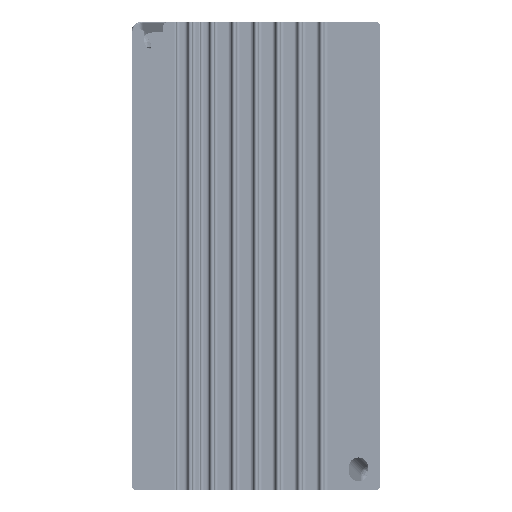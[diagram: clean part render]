
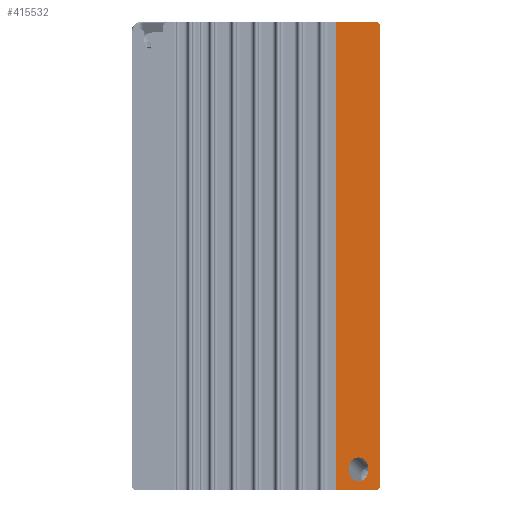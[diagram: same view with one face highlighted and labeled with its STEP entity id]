
A CAD part, front view. The second image highlights one B-rep face of the part: STEP entity #415532.
In plain terms, the highlighted planar face has unit normal (0, -1, 0).
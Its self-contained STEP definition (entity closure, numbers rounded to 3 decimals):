
#413631=CARTESIAN_POINT('',(32.8,-10.4,-62.8));
#413632=DIRECTION('',(0.,1.,0.));
#413633=DIRECTION('',(1.,0.,0.));
#413634=AXIS2_PLACEMENT_3D('',#413631,#413632,#413633);
#413639=DIRECTION('',(1.,0.,0.));
#413640=VECTOR('',#413639,11.);
#413641=CARTESIAN_POINT('',(21.8,-10.4,64.));
#413642=LINE('',#413641,#413640);
#413646=CARTESIAN_POINT('',(32.8,-10.4,62.8));
#413647=DIRECTION('',(0.,1.,0.));
#413648=DIRECTION('',(0.,0.,1.));
#413649=AXIS2_PLACEMENT_3D('',#413646,#413647,#413648);
#413654=DIRECTION('',(0.,0.,-1.));
#413655=VECTOR('',#413654,125.6);
#413656=CARTESIAN_POINT('',(34.,-10.4,62.8));
#413657=LINE('',#413656,#413655);
#413661=CARTESIAN_POINT('',(28.,-10.4,-59.));
#413662=DIRECTION('',(0.,-1.,0.));
#413663=DIRECTION('',(-1.,0.,0.));
#413664=AXIS2_PLACEMENT_3D('',#413661,#413662,#413663);
#413669=CARTESIAN_POINT('',(28.,-10.4,-57.7));
#413670=DIRECTION('',(0.,-1.,0.));
#413671=DIRECTION('',(1.,0.,0.));
#413672=AXIS2_PLACEMENT_3D('',#413669,#413670,#413671);
#413888=DIRECTION('',(0.,0.,-1.));
#413889=VECTOR('',#413888,128.);
#413890=CARTESIAN_POINT('',(21.8,-10.4,64.));
#413891=LINE('',#413890,#413889);
#413902=DIRECTION('',(1.,0.,0.));
#413903=VECTOR('',#413902,11.);
#413904=CARTESIAN_POINT('',(21.8,-10.4,-64.));
#413905=LINE('',#413904,#413903);
#413923=DIRECTION('',(0.,0.,1.));
#413924=VECTOR('',#413923,1.3);
#413925=CARTESIAN_POINT('',(25.4,-10.4,-59.));
#413926=LINE('',#413925,#413924);
#413944=DIRECTION('',(0.,0.,-1.));
#413945=VECTOR('',#413944,1.3);
#413946=CARTESIAN_POINT('',(30.6,-10.4,-57.7));
#413947=LINE('',#413946,#413945);
#414145=CARTESIAN_POINT('',(32.8,-10.4,64.));
#414146=VERTEX_POINT('',#414145);
#414147=CARTESIAN_POINT('',(21.8,-10.4,64.));
#414148=VERTEX_POINT('',#414147);
#414251=CARTESIAN_POINT('',(34.,-10.4,62.8));
#414252=VERTEX_POINT('',#414251);
#414253=CARTESIAN_POINT('',(34.,-10.4,-62.8));
#414254=CARTESIAN_POINT('',(32.8,-10.4,-64.));
#414255=VERTEX_POINT('',#414253);
#414256=VERTEX_POINT('',#414254);
#414257=CARTESIAN_POINT('',(21.8,-10.4,-64.));
#414258=VERTEX_POINT('',#414257);
#414259=CARTESIAN_POINT('',(25.4,-10.4,-59.));
#414260=CARTESIAN_POINT('',(30.6,-10.4,-59.));
#414261=VERTEX_POINT('',#414259);
#414262=VERTEX_POINT('',#414260);
#414263=CARTESIAN_POINT('',(30.6,-10.4,-57.7));
#414264=VERTEX_POINT('',#414263);
#414265=CARTESIAN_POINT('',(25.4,-10.4,-57.7));
#414266=VERTEX_POINT('',#414265);
#415505=CARTESIAN_POINT('',(21.8,-10.4,64.));
#415506=DIRECTION('',(0.,-1.,0.));
#415507=DIRECTION('',(1.,0.,0.));
#415508=AXIS2_PLACEMENT_3D('',#415505,#415506,#415507);
#415509=PLANE('',#415508);
#415511=ORIENTED_EDGE('',*,*,#415510,.T.);
#415513=ORIENTED_EDGE('',*,*,#415512,.F.);
#415515=ORIENTED_EDGE('',*,*,#415514,.F.);
#415516=ORIENTED_EDGE('',*,*,#414620,.T.);
#415517=ORIENTED_EDGE('',*,*,#415496,.T.);
#415519=ORIENTED_EDGE('',*,*,#415518,.T.);
#415520=EDGE_LOOP('',(#415511,#415513,#415515,#415516,#415517,#415519));
#415521=FACE_OUTER_BOUND('',#415520,.F.);
#415523=ORIENTED_EDGE('',*,*,#415522,.T.);
#415525=ORIENTED_EDGE('',*,*,#415524,.F.);
#415527=ORIENTED_EDGE('',*,*,#415526,.T.);
#415529=ORIENTED_EDGE('',*,*,#415528,.F.);
#415530=EDGE_LOOP('',(#415523,#415525,#415527,#415529));
#415531=FACE_BOUND('',#415530,.F.);
#413635=CIRCLE('',#413634,1.2);
#413650=CIRCLE('',#413649,1.2);
#413665=CIRCLE('',#413664,2.6);
#413673=CIRCLE('',#413672,2.6);
#414620=EDGE_CURVE('',#414148,#414146,#413642,.T.);
#415496=EDGE_CURVE('',#414146,#414252,#413650,.T.);
#415510=EDGE_CURVE('',#414255,#414256,#413635,.T.);
#415512=EDGE_CURVE('',#414258,#414256,#413905,.T.);
#415514=EDGE_CURVE('',#414148,#414258,#413891,.T.);
#415518=EDGE_CURVE('',#414252,#414255,#413657,.T.);
#415522=EDGE_CURVE('',#414261,#414262,#413665,.T.);
#415524=EDGE_CURVE('',#414264,#414262,#413947,.T.);
#415526=EDGE_CURVE('',#414264,#414266,#413673,.T.);
#415528=EDGE_CURVE('',#414261,#414266,#413926,.T.);
#415532=ADVANCED_FACE('',(#415521,#415531),#415509,.T.);
